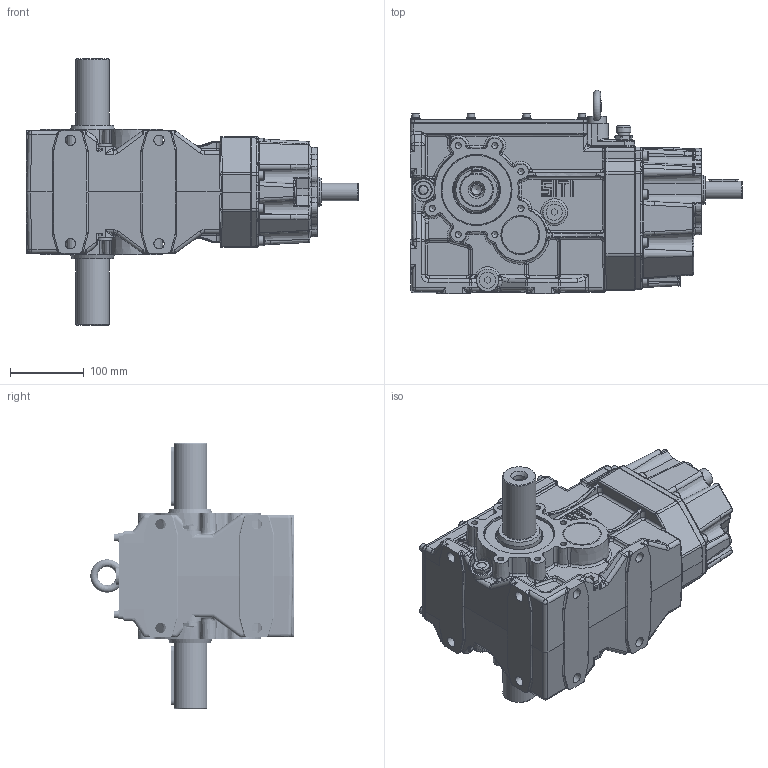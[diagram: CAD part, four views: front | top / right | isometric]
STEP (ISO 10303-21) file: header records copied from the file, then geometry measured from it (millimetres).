
FILE_DESCRIPTION((''),'2;1');
FILE_NAME('O:\Figurini\Figurini BH\3D\80\BH 80 MD.stp','2013-05-30T09:28:33',('d.iannaccio'),(''),'Autodesk Inventor 2012','Autodesk Inventor 2012','');
FILE_SCHEMA(('AUTOMOTIVE_DESIGN { 1 0 10303 214 1 1 1 1 }'));
Length unit declared in the file: millimetre
Products named in the file (1): BH_80 MD
Bounding box: 449 x 274.97 x 360 mm (x, y, z)
Volume: 4402912.4 mm3; surface area: 895967.7 mm2
Topology: 2 solids, 45 shells, 3464 faces, 8249 edges, 4859 vertices
Faces by surface type: cylinder 1054, plane 927, bspline 750, cone 331, torus 294, sphere 108
Full cylindrical faces by diameter (mm): 4.2 x1, 4.917 x8, 5 x1, 5.3 x1, 6 x16, 6.4 x8, 6.647 x16, 7 x8, 8 x14, 8.376 x15, 8.5 x2, 9 x8, 10 x16, 11.445 x1, 12.5 x8, 13 x8, 13.835 x2, 14 x8, 14.95 x7, 16 x2, 17 x3, 18 x1, 19.5 x1, 24 x1, 25 x1, 37.5 x2, 39.581 x1, 39.6 x1, 39.981 x3, 40 x4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
Entity records: 122272 total; most frequent: CARTESIAN_POINT 44910, DIRECTION 15169, ORIENTED_EDGE 15056, EDGE_CURVE 7528, AXIS2_PLACEMENT_3D 6317, VERTEX_POINT 4694, EDGE_LOOP 4077, FACE_OUTER_BOUND 3464
